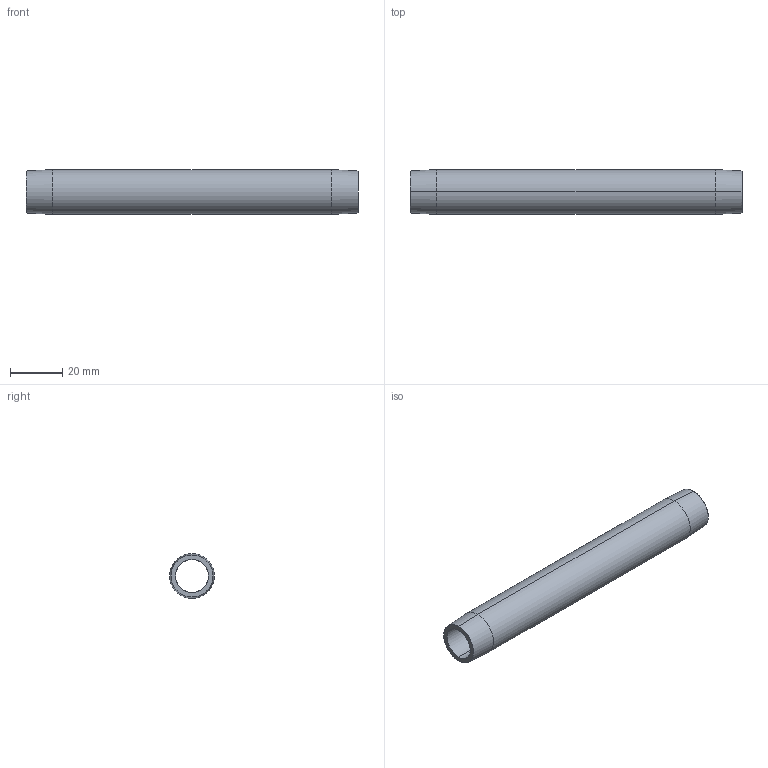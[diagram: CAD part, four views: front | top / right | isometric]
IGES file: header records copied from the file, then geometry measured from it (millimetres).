
Start section: SolidWorks IGES file using analytic representation for surfaces
Global section: file name: C:\Users\365admin\AppData\Local\Temp\InFlowXlateWorking\GPN37L5.igs; native system: SolidWorks 2018; preprocessor: SolidWorks 2018; author: 365admin; date: 200819.025857; units: inch
Bounding box: 127 x 17.14 x 17.14 mm (x, y, z)
Surface area: 11962.2 mm2 (no closed solid volume)
Topology: 0 solids, 0 shells, 10 faces, 160 edges, 160 vertices
Faces by surface type: revolution 8, bspline 2
